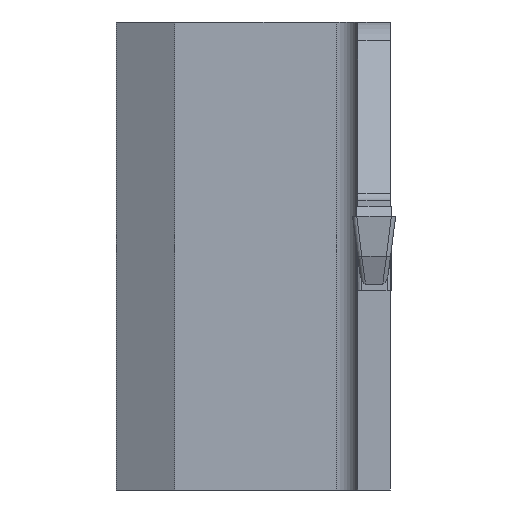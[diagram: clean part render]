
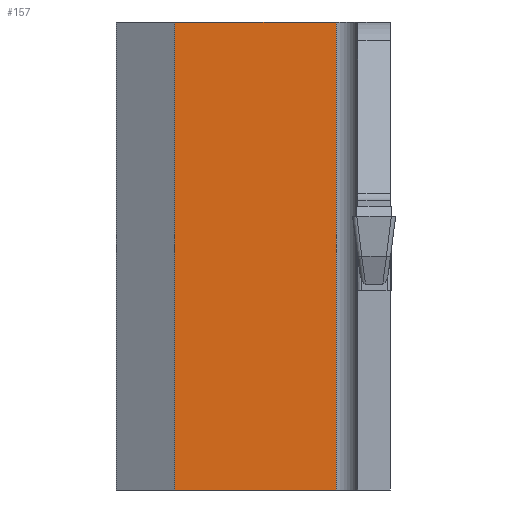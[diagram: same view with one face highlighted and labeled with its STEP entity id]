
A CAD part, left-side view. The second image highlights one B-rep face of the part: STEP entity #157.
In plain terms, the highlighted planar face has unit normal (-1, 0, 0).
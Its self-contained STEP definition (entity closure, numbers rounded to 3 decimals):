
#157=ADVANCED_FACE('',(#267),#221,.T.);
#221=PLANE('',#1233);
#267=FACE_OUTER_BOUND('',#331,.T.);
#331=EDGE_LOOP('',(#440,#441,#442,#443));
#440=ORIENTED_EDGE('',*,*,#859,.T.);
#441=ORIENTED_EDGE('',*,*,#860,.T.);
#442=ORIENTED_EDGE('',*,*,#831,.F.);
#443=ORIENTED_EDGE('',*,*,#858,.F.);
#727=VERTEX_POINT('',#1637);
#728=VERTEX_POINT('',#1639);
#750=VERTEX_POINT('',#1692);
#751=VERTEX_POINT('',#1696);
#831=EDGE_CURVE('',#727,#728,#991,.T.);
#858=EDGE_CURVE('',#750,#727,#1013,.T.);
#859=EDGE_CURVE('',#750,#751,#1014,.T.);
#860=EDGE_CURVE('',#751,#728,#1015,.T.);
#991=LINE('',#1638,#1109);
#1013=LINE('',#1693,#1131);
#1014=LINE('',#1695,#1132);
#1015=LINE('',#1697,#1133);
#1109=VECTOR('',#1324,1.);
#1131=VECTOR('',#1366,1.);
#1132=VECTOR('',#1369,1.);
#1133=VECTOR('',#1370,1.);
#1233=AXIS2_PLACEMENT_3D('',#1698,#1371,#1372);
#1324=DIRECTION('',(0.,-1.,0.));
#1366=DIRECTION('',(0.,0.,1.));
#1369=DIRECTION('',(0.,-1.,0.));
#1370=DIRECTION('',(0.,0.,1.));
#1371=DIRECTION('',(-1.,0.,0.));
#1372=DIRECTION('',(0.,0.,1.));
#1637=CARTESIAN_POINT('',(15.5,9.25,9.));
#1638=CARTESIAN_POINT('',(15.5,9.25,9.));
#1639=CARTESIAN_POINT('',(15.5,1.75,9.));
#1692=CARTESIAN_POINT('',(15.5,9.25,-12.7));
#1693=CARTESIAN_POINT('',(15.5,9.25,-12.7));
#1695=CARTESIAN_POINT('',(15.5,9.25,-12.7));
#1696=CARTESIAN_POINT('',(15.5,1.75,-12.7));
#1697=CARTESIAN_POINT('',(15.5,1.75,9.));
#1698=CARTESIAN_POINT('',(15.5,9.25,-12.7));
